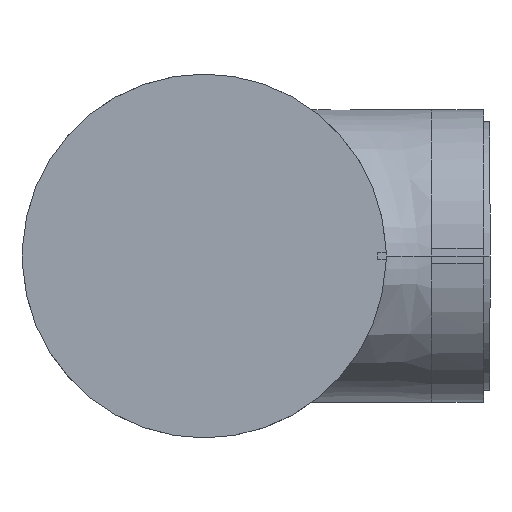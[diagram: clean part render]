
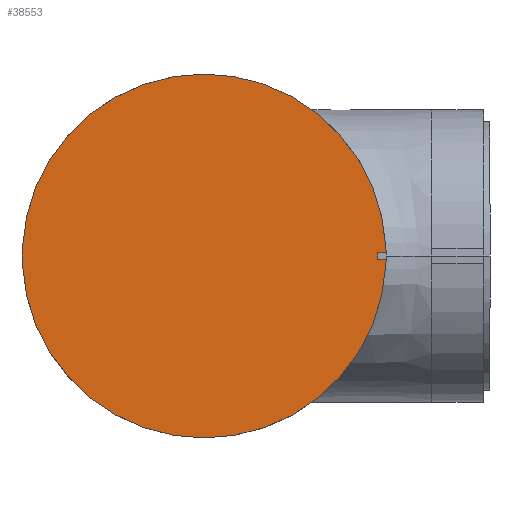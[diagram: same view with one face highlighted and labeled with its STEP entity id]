
A CAD part, left-side view. The second image highlights one B-rep face of the part: STEP entity #38553.
In plain terms, the highlighted planar face has unit normal (-1, 0, 0).
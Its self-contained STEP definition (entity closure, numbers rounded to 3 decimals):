
#265 = CARTESIAN_POINT ( 'NONE',  ( 261., -26.9, 1016. ) ) ;
#1902 = EDGE_CURVE ( 'NONE', #53438, #16767, #28642, .T. ) ;
#1972 = VECTOR ( 'NONE', #48061, 1000. ) ;
#1978 = DIRECTION ( 'NONE',  ( 0., 0.052, 0.999 ) ) ;
#2589 = FACE_OUTER_BOUND ( 'NONE', #2720, .T. ) ;
#2720 = EDGE_LOOP ( 'NONE', ( #45495, #42861, #54851, #40567, #40266, #39748, #28240, #37739, #32362, #26000 ) ) ;
#3202 = DIRECTION ( 'NONE',  ( 0., -1., 0. ) ) ;
#3221 = DIRECTION ( 'NONE',  ( 0., 0., 1. ) ) ;
#3769 = PLANE ( 'NONE',  #51734 ) ;
#4110 = CARTESIAN_POINT ( 'NONE',  ( 261., 35.1, 1015. ) ) ;
#4549 = EDGE_CURVE ( 'NONE', #36953, #15416, #52158, .T. ) ;
#4771 = DIRECTION ( 'NONE',  ( 0., 0., 1. ) ) ;
#5911 = CARTESIAN_POINT ( 'NONE',  ( 261., 91.023, 1012.069 ) ) ;
#7740 = CARTESIAN_POINT ( 'NONE',  ( 261., 91.023, 1017.931 ) ) ;
#8622 = DIRECTION ( 'NONE',  ( -1., 0., 0. ) ) ;
#9709 = CARTESIAN_POINT ( 'NONE',  ( 261., -20.823, 1017.931 ) ) ;
#10868 = DIRECTION ( 'NONE',  ( -1., 0., 0. ) ) ;
#11239 = CARTESIAN_POINT ( 'NONE',  ( 261., -20.924, 1014. ) ) ;
#12120 = CARTESIAN_POINT ( 'NONE',  ( 261., -20.977, 1015. ) ) ;
#12742 = LINE ( 'NONE', #30997, #20102 ) ;
#15416 = VERTEX_POINT ( 'NONE', #29123 ) ;
#15714 = EDGE_CURVE ( 'NONE', #29623, #29691, #27592, .T. ) ;
#16328 = LINE ( 'NONE', #5911, #1972 ) ;
#16767 = VERTEX_POINT ( 'NONE', #55082 ) ;
#17508 = DIRECTION ( 'NONE',  ( -1., 0., 0. ) ) ;
#17689 = VERTEX_POINT ( 'NONE', #11239 ) ;
#20102 = VECTOR ( 'NONE', #3202, 1000. ) ;
#21260 = VERTEX_POINT ( 'NONE', #22450 ) ;
#22002 = CARTESIAN_POINT ( 'NONE',  ( 261., 35.1, 1015. ) ) ;
#22340 = DIRECTION ( 'NONE',  ( -1., 0., 0. ) ) ;
#22435 = EDGE_CURVE ( 'NONE', #15416, #29623, #55514, .T. ) ;
#22450 = CARTESIAN_POINT ( 'NONE',  ( 261., 91.023, 1012.069 ) ) ;
#22947 = VERTEX_POINT ( 'NONE', #36045 ) ;
#24417 = AXIS2_PLACEMENT_3D ( 'NONE', #56079, #10868, #51582 ) ;
#24769 = DIRECTION ( 'NONE',  ( 0., -0.052, 0.999 ) ) ;
#25307 = VERTEX_POINT ( 'NONE', #56265 ) ;
#26000 = ORIENTED_EDGE ( 'NONE', *, *, #46624, .T. ) ;
#26080 = EDGE_CURVE ( 'NONE', #25307, #17689, #12742, .T. ) ;
#27592 = LINE ( 'NONE', #37442, #47716 ) ;
#28240 = ORIENTED_EDGE ( 'NONE', *, *, #15714, .T. ) ;
#28500 = EDGE_CURVE ( 'NONE', #29691, #21260, #16328, .T. ) ;
#28642 = LINE ( 'NONE', #265, #45137 ) ;
#28667 = LINE ( 'NONE', #37364, #39424 ) ;
#28817 = CIRCLE ( 'NONE', #56548, 56. ) ;
#29123 = CARTESIAN_POINT ( 'NONE',  ( 261., 35.1, 1071. ) ) ;
#29623 = VERTEX_POINT ( 'NONE', #7740 ) ;
#29680 = AXIS2_PLACEMENT_3D ( 'NONE', #4110, #22340, #3221 ) ;
#29691 = VERTEX_POINT ( 'NONE', #40314 ) ;
#30684 = DIRECTION ( 'NONE',  ( 0., 0., 1. ) ) ;
#30997 = CARTESIAN_POINT ( 'NONE',  ( 261., -16.9, 1014. ) ) ;
#32362 = ORIENTED_EDGE ( 'NONE', *, *, #38381, .T. ) ;
#32777 = VECTOR ( 'NONE', #1978, 1000. ) ;
#32849 = DIRECTION ( 'NONE',  ( 0., 1., 0. ) ) ;
#33364 = CARTESIAN_POINT ( 'NONE',  ( 261., 35.1, 1015. ) ) ;
#36045 = CARTESIAN_POINT ( 'NONE',  ( 261., -20.823, 1012.069 ) ) ;
#36953 = VERTEX_POINT ( 'NONE', #9709 ) ;
#37364 = CARTESIAN_POINT ( 'NONE',  ( 261., -20.977, 1015. ) ) ;
#37442 = CARTESIAN_POINT ( 'NONE',  ( 261., 91.023, 1017.931 ) ) ;
#37739 = ORIENTED_EDGE ( 'NONE', *, *, #28500, .T. ) ;
#38381 = EDGE_CURVE ( 'NONE', #21260, #22947, #28817, .T. ) ;
#38553 = ADVANCED_FACE ( 'NONE', ( #2589 ), #3769, .T. ) ;
#39424 = VECTOR ( 'NONE', #24769, 1000. ) ;
#39748 = ORIENTED_EDGE ( 'NONE', *, *, #22435, .T. ) ;
#40266 = ORIENTED_EDGE ( 'NONE', *, *, #4549, .T. ) ;
#40314 = CARTESIAN_POINT ( 'NONE',  ( 261., 91.177, 1015. ) ) ;
#40497 = AXIS2_PLACEMENT_3D ( 'NONE', #33364, #54443, #4771 ) ;
#40567 = ORIENTED_EDGE ( 'NONE', *, *, #55826, .T. ) ;
#42227 = DIRECTION ( 'NONE',  ( 0., 0.052, -0.999 ) ) ;
#42259 = CARTESIAN_POINT ( 'NONE',  ( 261., -20.924, 1016. ) ) ;
#42861 = ORIENTED_EDGE ( 'NONE', *, *, #57417, .T. ) ;
#44524 = CARTESIAN_POINT ( 'NONE',  ( 261., 35.1, 1015. ) ) ;
#45137 = VECTOR ( 'NONE', #32849, 1000. ) ;
#45495 = ORIENTED_EDGE ( 'NONE', *, *, #26080, .F. ) ;
#46624 = EDGE_CURVE ( 'NONE', #22947, #17689, #28667, .T. ) ;
#47716 = VECTOR ( 'NONE', #42227, 1000. ) ;
#48061 = DIRECTION ( 'NONE',  ( 0., -0.052, -0.999 ) ) ;
#51582 = DIRECTION ( 'NONE',  ( 0., 0., 1. ) ) ;
#51734 = AXIS2_PLACEMENT_3D ( 'NONE', #22002, #17508, #30684 ) ;
#52158 = CIRCLE ( 'NONE', #24417, 56. ) ;
#52244 = LINE ( 'NONE', #12120, #32777 ) ;
#53438 = VERTEX_POINT ( 'NONE', #42259 ) ;
#53888 = CIRCLE ( 'NONE', #40497, 53.5 ) ;
#54443 = DIRECTION ( 'NONE',  ( -1., 0., 0. ) ) ;
#54851 = ORIENTED_EDGE ( 'NONE', *, *, #1902, .F. ) ;
#55082 = CARTESIAN_POINT ( 'NONE',  ( 261., -18.391, 1016. ) ) ;
#55514 = CIRCLE ( 'NONE', #29680, 56. ) ;
#55826 = EDGE_CURVE ( 'NONE', #53438, #36953, #52244, .T. ) ;
#56079 = CARTESIAN_POINT ( 'NONE',  ( 261., 35.1, 1015. ) ) ;
#56265 = CARTESIAN_POINT ( 'NONE',  ( 261., -18.391, 1014. ) ) ;
#56548 = AXIS2_PLACEMENT_3D ( 'NONE', #44524, #8622, #57704 ) ;
#57417 = EDGE_CURVE ( 'NONE', #25307, #16767, #53888, .T. ) ;
#57704 = DIRECTION ( 'NONE',  ( 0., 0., 1. ) ) ;
